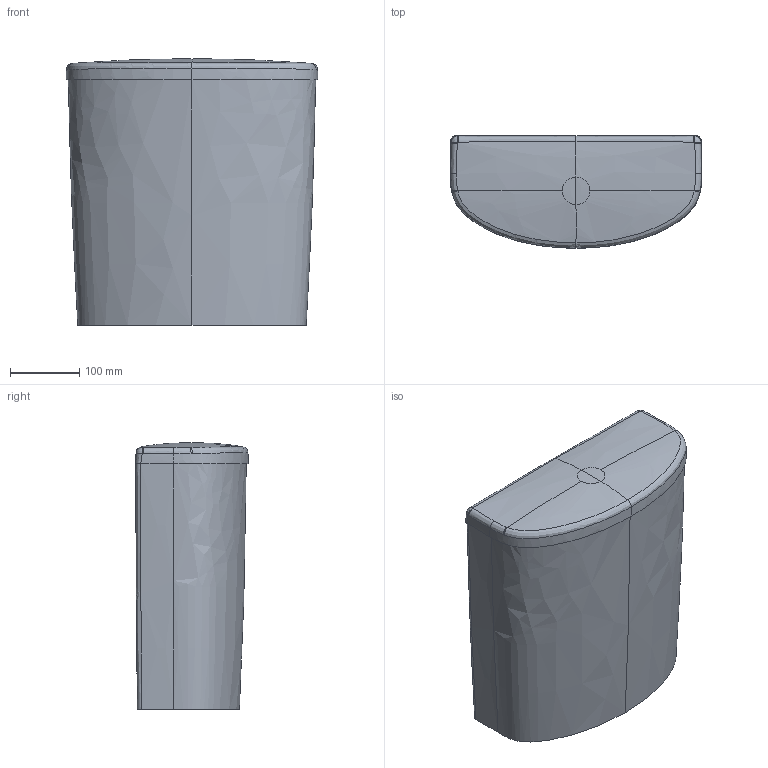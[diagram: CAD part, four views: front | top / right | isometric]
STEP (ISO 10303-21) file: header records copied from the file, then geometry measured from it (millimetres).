
FILE_DESCRIPTION(/* description */ (''),/* implementation_level */ '2;1');
FILE_NAME(/* name */ 'C:\Planerdaten\Export PLA\500.268.01.1\stp\500268.stp',/* time_stamp */ '2020-05-27T08:25:02+02:00',/* author */ ('seihe2'),/* organization */ (''),/* preprocessor_version */ 'ST-DEVELOPER v16.13',/* originating_system */ 'Autodesk Inventor 2018',/* authorisation */ '');
FILE_SCHEMA (('AUTOMOTIVE_DESIGN { 1 0 10303 214 3 1 1 }'));
Length unit declared in the file: millimetre
Products named in the file (1): AP-SPK-a Ge+Snv 2-M 4/2.6L WAu
Bounding box: 364 x 163 x 385.34 mm (x, y, z)
Volume: 17876180.7 mm3; surface area: 432260.4 mm2
Topology: 1 solids, 1 shells, 46 faces, 109 edges, 63 vertices
Faces by surface type: bspline 42, plane 4
Entity records: 7842 total; most frequent: CARTESIAN_POINT 6997, ORIENTED_EDGE 214, EDGE_CURVE 107, B_SPLINE_CURVE_WITH_KNOTS 73, DIRECTION 66, VERTEX_POINT 63, STYLED_ITEM 47, FACE_OUTER_BOUND 46
